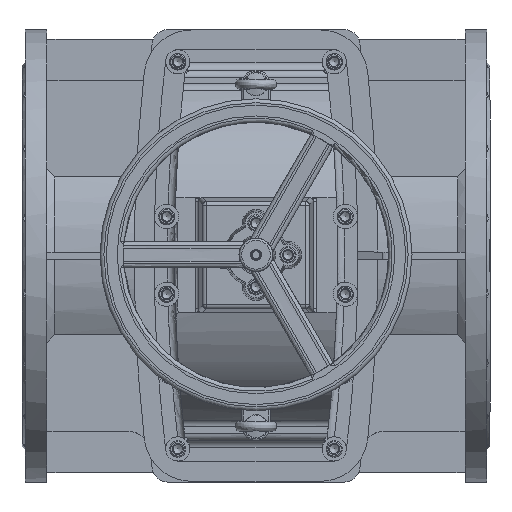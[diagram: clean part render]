
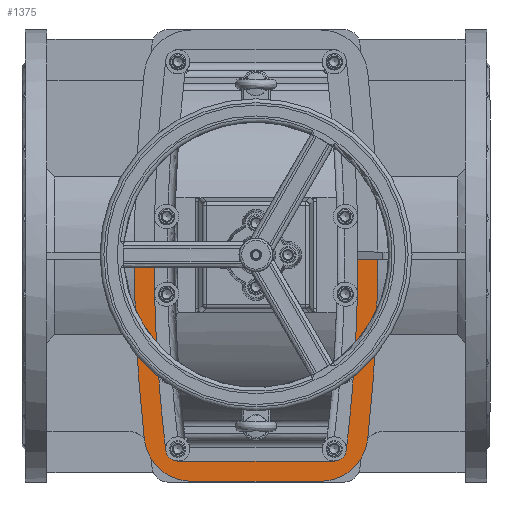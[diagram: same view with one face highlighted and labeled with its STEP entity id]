
A CAD part, top view. The second image highlights one B-rep face of the part: STEP entity #1375.
In plain terms, the highlighted planar face has unit normal (0, 0, 1).
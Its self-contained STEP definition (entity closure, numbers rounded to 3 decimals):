
#1375=ADVANCED_FACE('',(#8094),#8096,.T.);
#8094=FACE_BOUND('',#8095,.T.);
#8095=EDGE_LOOP('',(#27517,#27518,#27519,#27520,#27521,#27522,#27523,#27524,#27525,
#27526,#27527,#27528));
#8096=PLANE('',#8097);
#8097=AXIS2_PLACEMENT_3D('',#8098,#8099,#8100);
#8098=CARTESIAN_POINT('',(0.,0.,336.667));
#8099=DIRECTION('',(0.,0.,1.));
#8100=DIRECTION('',(-1.,0.,0.));
#27517=ORIENTED_EDGE('',*,*,#32570,.F.);
#27518=ORIENTED_EDGE('',*,*,#32790,.T.);
#27519=ORIENTED_EDGE('',*,*,#32791,.T.);
#27520=ORIENTED_EDGE('',*,*,#32792,.T.);
#27521=ORIENTED_EDGE('',*,*,#32793,.T.);
#27522=ORIENTED_EDGE('',*,*,#32794,.T.);
#27523=ORIENTED_EDGE('',*,*,#32526,.F.);
#27524=ORIENTED_EDGE('',*,*,#32789,.T.);
#27525=ORIENTED_EDGE('',*,*,#32795,.T.);
#27526=ORIENTED_EDGE('',*,*,#32796,.T.);
#27527=ORIENTED_EDGE('',*,*,#32797,.T.);
#27528=ORIENTED_EDGE('',*,*,#32798,.T.);
#32526=EDGE_CURVE('',#35554,#35556,#35557,.F.);
#32570=EDGE_CURVE('',#35635,#35637,#35638,.F.);
#32789=EDGE_CURVE('',#35554,#36047,#36049,.T.);
#32790=EDGE_CURVE('',#35635,#36050,#36051,.F.);
#32791=EDGE_CURVE('',#36050,#36052,#36053,.T.);
#32792=EDGE_CURVE('',#36052,#36054,#36055,.T.);
#32793=EDGE_CURVE('',#36054,#36056,#36057,.T.);
#32794=EDGE_CURVE('',#36056,#35556,#36058,.F.);
#32795=EDGE_CURVE('',#36047,#36059,#36060,.T.);
#32796=EDGE_CURVE('',#36059,#36061,#36062,.T.);
#32797=EDGE_CURVE('',#36061,#36063,#36064,.T.);
#32798=EDGE_CURVE('',#36063,#35637,#36065,.T.);
#35554=VERTEX_POINT('',#47499);
#35556=VERTEX_POINT('',#47503);
#35557=LINE('',#47504,#47505);
#35635=VERTEX_POINT('',#47948);
#35637=VERTEX_POINT('',#47952);
#35638=LINE('',#47953,#47954);
#36047=VERTEX_POINT('',#49076);
#36049=CIRCLE('',#49080,2130.302);
#36050=VERTEX_POINT('',#49084);
#36051=CIRCLE('',#49085,2078.302);
#36052=VERTEX_POINT('',#49089);
#36053=CIRCLE('',#49090,9.333);
#36054=VERTEX_POINT('',#49094);
#36055=LINE('',#49095,#49096);
#36056=VERTEX_POINT('',#49098);
#36057=CIRCLE('',#49099,9.333);
#36058=CIRCLE('',#49103,2078.302);
#36059=VERTEX_POINT('',#49107);
#36060=CIRCLE('',#49108,61.333);
#36061=VERTEX_POINT('',#49112);
#36062=LINE('',#49113,#49114);
#36063=VERTEX_POINT('',#49116);
#36064=CIRCLE('',#49117,61.333);
#36065=CIRCLE('',#49121,2130.302);
#47499=CARTESIAN_POINT('',(-156.229,-4.667,336.667));
#47503=CARTESIAN_POINT('',(-104.228,-4.667,336.667));
#47504=CARTESIAN_POINT('',(-104.228,-4.667,336.667));
#47505=VECTOR('',#47506,1.);
#47506=DIRECTION('',(-1.,0.,0.));
#47948=CARTESIAN_POINT('',(104.228,-4.667,336.667));
#47952=CARTESIAN_POINT('',(156.229,-4.667,336.667));
#47953=CARTESIAN_POINT('',(156.229,-4.667,336.667));
#47954=VECTOR('',#47955,1.);
#47955=DIRECTION('',(-1.,0.,0.));
#49076=CARTESIAN_POINT('',(-143.259,-234.759,336.667));
#49080=AXIS2_PLACEMENT_3D('',#49081,#49082,#49083);
#49081=CARTESIAN_POINT('',(1974.068,0.,336.667));
#49082=DIRECTION('',(0.,0.,1.));
#49083=DIRECTION('',(-1.,-0.002,0.));
#49084=CARTESIAN_POINT('',(91.576,-229.029,336.667));
#49085=AXIS2_PLACEMENT_3D('',#49086,#49087,#49088);
#49086=CARTESIAN_POINT('',(-1974.068,0.,336.667));
#49087=DIRECTION('',(0.,0.,1.));
#49088=DIRECTION('',(0.994,-0.11,0.));
#49089=CARTESIAN_POINT('',(82.299,-237.333,336.667));
#49090=AXIS2_PLACEMENT_3D('',#49091,#49092,#49093);
#49091=CARTESIAN_POINT('',(82.299,-228.,336.667));
#49092=DIRECTION('',(0.,0.,-1.));
#49093=DIRECTION('',(0.994,-0.11,0.));
#49094=CARTESIAN_POINT('',(-82.299,-237.333,336.667));
#49095=CARTESIAN_POINT('',(82.299,-237.333,336.667));
#49096=VECTOR('',#49097,1.);
#49097=DIRECTION('',(-1.,0.,0.));
#49098=CARTESIAN_POINT('',(-91.576,-229.029,336.667));
#49099=AXIS2_PLACEMENT_3D('',#49100,#49101,#49102);
#49100=CARTESIAN_POINT('',(-82.299,-228.,336.667));
#49101=DIRECTION('',(0.,0.,-1.));
#49102=DIRECTION('',(0.,-1.,0.));
#49103=AXIS2_PLACEMENT_3D('',#49104,#49105,#49106);
#49104=CARTESIAN_POINT('',(1974.068,0.,336.667));
#49105=DIRECTION('',(0.,0.,1.));
#49106=DIRECTION('',(-1.,-0.002,0.));
#49107=CARTESIAN_POINT('',(-82.299,-289.333,336.667));
#49108=AXIS2_PLACEMENT_3D('',#49109,#49110,#49111);
#49109=CARTESIAN_POINT('',(-82.299,-228.,336.667));
#49110=DIRECTION('',(0.,0.,1.));
#49111=DIRECTION('',(-0.994,-0.11,0.));
#49112=CARTESIAN_POINT('',(82.299,-289.333,336.667));
#49113=CARTESIAN_POINT('',(-82.299,-289.333,336.667));
#49114=VECTOR('',#49115,1.);
#49115=DIRECTION('',(1.,0.,0.));
#49116=CARTESIAN_POINT('',(143.259,-234.759,336.667));
#49117=AXIS2_PLACEMENT_3D('',#49118,#49119,#49120);
#49118=CARTESIAN_POINT('',(82.299,-228.,336.667));
#49119=DIRECTION('',(0.,0.,1.));
#49120=DIRECTION('',(0.,-1.,0.));
#49121=AXIS2_PLACEMENT_3D('',#49122,#49123,#49124);
#49122=CARTESIAN_POINT('',(-1974.068,0.,336.667));
#49123=DIRECTION('',(0.,0.,1.));
#49124=DIRECTION('',(0.994,-0.11,0.));
